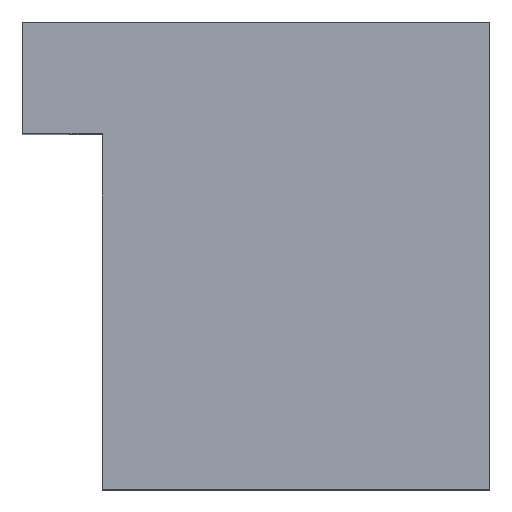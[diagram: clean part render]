
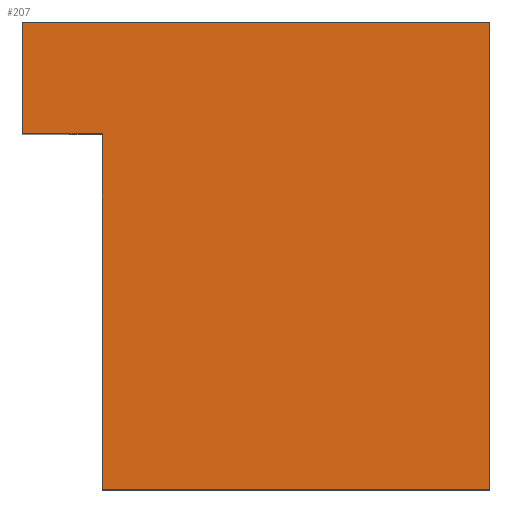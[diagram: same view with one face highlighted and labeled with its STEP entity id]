
A CAD part, top view. The second image highlights one B-rep face of the part: STEP entity #207.
In plain terms, the highlighted planar face has unit normal (0, 0, 1).
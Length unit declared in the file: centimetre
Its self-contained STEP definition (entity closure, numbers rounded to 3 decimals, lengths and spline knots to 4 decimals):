
#3 = VERTEX_POINT ( 'NONE', #363 ) ;
#8 = CARTESIAN_POINT ( 'NONE',  ( 0., 0., 1000. ) ) ;
#11 = LINE ( 'NONE', #314, #481 ) ;
#21 = ORIENTED_EDGE ( 'NONE', *, *, #308, .T. ) ;
#28 = EDGE_CURVE ( 'NONE', #83, #232, #474, .T. ) ;
#33 = CARTESIAN_POINT ( 'NONE',  ( 0., 1000., 1000. ) ) ;
#35 = EDGE_CURVE ( 'NONE', #455, #184, #187, .T. ) ;
#41 = DIRECTION ( 'NONE',  ( 1., 0., 0. ) ) ;
#44 = ORIENTED_EDGE ( 'NONE', *, *, #203, .T. ) ;
#61 = CARTESIAN_POINT ( 'NONE',  ( 171.1548, 760.3487, 1000. ) ) ;
#72 = CARTESIAN_POINT ( 'NONE',  ( 1000., 1000., 1000. ) ) ;
#76 = ORIENTED_EDGE ( 'NONE', *, *, #28, .F. ) ;
#78 = EDGE_CURVE ( 'NONE', #324, #3, #142, .T. ) ;
#82 = VECTOR ( 'NONE', #380, 100. ) ;
#83 = VERTEX_POINT ( 'NONE', #61 ) ;
#101 = CARTESIAN_POINT ( 'NONE',  ( 0., 760.3487, 1000. ) ) ;
#132 = DIRECTION ( 'NONE',  ( 0., -1., 0. ) ) ;
#137 = LINE ( 'NONE', #175, #157 ) ;
#142 = LINE ( 'NONE', #286, #414 ) ;
#145 = VECTOR ( 'NONE', #132, 100. ) ;
#157 = VECTOR ( 'NONE', #213, 100. ) ;
#159 = CARTESIAN_POINT ( 'NONE',  ( 0., 1000., 1000. ) ) ;
#160 = ORIENTED_EDGE ( 'NONE', *, *, #214, .F. ) ;
#175 = CARTESIAN_POINT ( 'NONE',  ( 1000., 1000., 1000. ) ) ;
#184 = VERTEX_POINT ( 'NONE', #359 ) ;
#187 = LINE ( 'NONE', #33, #82 ) ;
#203 = EDGE_CURVE ( 'NONE', #184, #232, #235, .T. ) ;
#207 = ADVANCED_FACE ( 'NONE', ( #459 ), #274, .T. ) ;
#213 = DIRECTION ( 'NONE',  ( 0., 1., 0. ) ) ;
#214 = EDGE_CURVE ( 'NONE', #324, #83, #11, .T. ) ;
#232 = VERTEX_POINT ( 'NONE', #272 ) ;
#235 = LINE ( 'NONE', #159, #145 ) ;
#245 = DIRECTION ( 'NONE',  ( -1., 0., 0. ) ) ;
#249 = CARTESIAN_POINT ( 'NONE',  ( 171.1548, 0., 1000. ) ) ;
#255 = ORIENTED_EDGE ( 'NONE', *, *, #35, .T. ) ;
#272 = CARTESIAN_POINT ( 'NONE',  ( 0., 760.3487, 1000. ) ) ;
#274 = PLANE ( 'NONE',  #367 ) ;
#286 = CARTESIAN_POINT ( 'NONE',  ( 0., 0., 1000. ) ) ;
#298 = EDGE_LOOP ( 'NONE', ( #76, #160, #463, #21, #255, #44 ) ) ;
#308 = EDGE_CURVE ( 'NONE', #3, #455, #137, .T. ) ;
#314 = CARTESIAN_POINT ( 'NONE',  ( 171.1548, 0., 1000. ) ) ;
#324 = VERTEX_POINT ( 'NONE', #249 ) ;
#359 = CARTESIAN_POINT ( 'NONE',  ( 0., 1000., 1000. ) ) ;
#363 = CARTESIAN_POINT ( 'NONE',  ( 1000., 0., 1000. ) ) ;
#367 = AXIS2_PLACEMENT_3D ( 'NONE', #8, #467, #41 ) ;
#380 = DIRECTION ( 'NONE',  ( -1., 0., 0. ) ) ;
#413 = VECTOR ( 'NONE', #245, 100. ) ;
#414 = VECTOR ( 'NONE', #441, 100. ) ;
#441 = DIRECTION ( 'NONE',  ( 1., 0., 0. ) ) ;
#455 = VERTEX_POINT ( 'NONE', #72 ) ;
#459 = FACE_OUTER_BOUND ( 'NONE', #298, .T. ) ;
#463 = ORIENTED_EDGE ( 'NONE', *, *, #78, .T. ) ;
#467 = DIRECTION ( 'NONE',  ( 0., 0., 1. ) ) ;
#469 = DIRECTION ( 'NONE',  ( 0., 1., 0. ) ) ;
#474 = LINE ( 'NONE', #101, #413 ) ;
#481 = VECTOR ( 'NONE', #469, 100. ) ;
